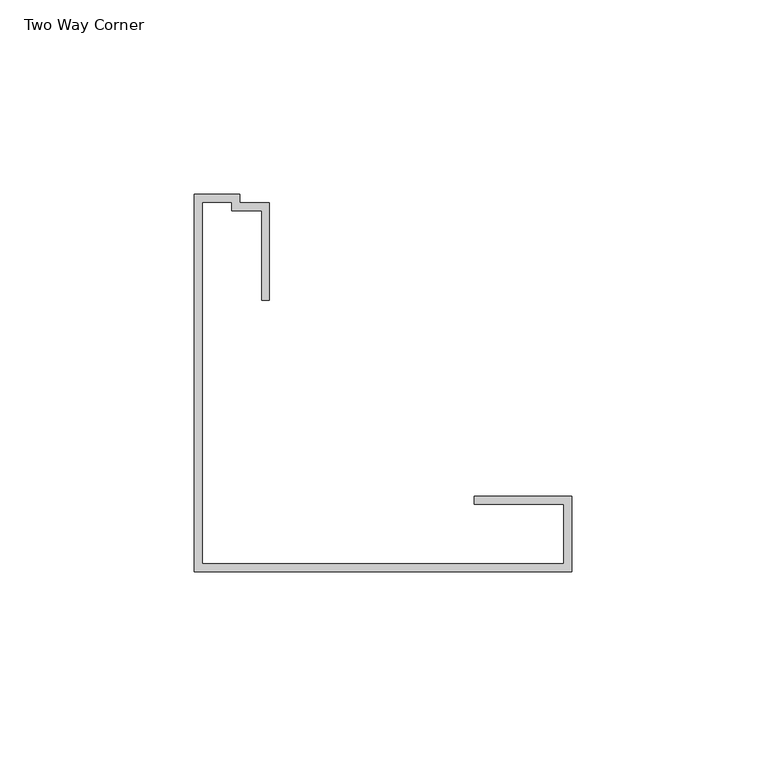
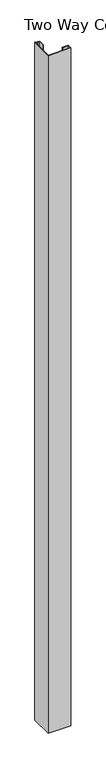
"""IFC4 building model written with IfcOpenShell, lengths in millimetres: proxy geometry, Connection-Corner-Teknion-OptosLP-Two_Way_FZCD2_D : Two Way Corner."""

from ifc_helpers import new_model, si_unit, origin, origin_with_axes, place, context, project, spatial, polyline, outline, extrude, source, transform, mapped, element, save


def two_way_corner_7eccfd8a(model_context):
    return source(origin(), model_context, "Body", "SweptSolid", [
        extrude(outline(polyline([(47.6122983, -29.1973003), (47.6122983, -48.5013002), (-49.3903011, -48.5013002), (-49.3903011, 48.5013002), (-37.7063006, 48.5013002), (-37.7063006, 46.2915003), (-30.0863013, 46.2915003), (-30.0863013, 21.3233004), (-32.1183018, 21.3233004), (-32.1183018, 44.2595002), (-39.7383012, 44.2595002), (-39.7383012, 46.4693001), (-47.3583005, 46.4693001), (-47.3583005, -46.4693033), (45.5803014, -46.4693033), (45.5803014, -31.2292972), (22.6440988, -31.2292972), (22.6440988, -29.1973003), (47.6122983, -29.1973003)])), origin_with_axes(), (0.0, 0.0, 1.0), 3048.0),
    ])


if __name__ == "__main__":
    model = new_model("IFC4")
    model_context = context("Model", 3, world=origin())
    ifc_project = project(units=[si_unit("LENGTHUNIT", "METRE", prefix="MILLI")], contexts=[model_context])
    site = spatial("IfcSite", under=ifc_project)
    building = spatial("IfcBuilding", under=site)
    placement = place(None, origin())
    two_way_corner_shape = two_way_corner_7eccfd8a(model_context)
    element("IfcBuildingElementProxy", 1, Name="Connection-Corner-Teknion-OptosLP-Two_Way_FZCD2_D : Two Way Corner", ObjectType="Connection-Corner-Teknion-OptosLP-Two_Way_FZCD2_D : Two Way Corner", at=placement, inside=building, context=model_context, shape_type="MappedRepresentation", body=[
        mapped(two_way_corner_shape, transform((0.0, 0.0, 0.0), x_axis=(1.0, 0.0, 0.0), y_axis=(0.0, 1.0, 0.0), z_axis=(0.0, 0.0, 1.0))),
    ])
    save(model, "model.ifc")
